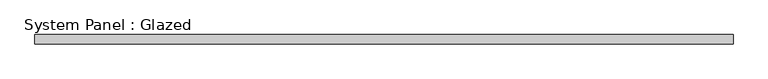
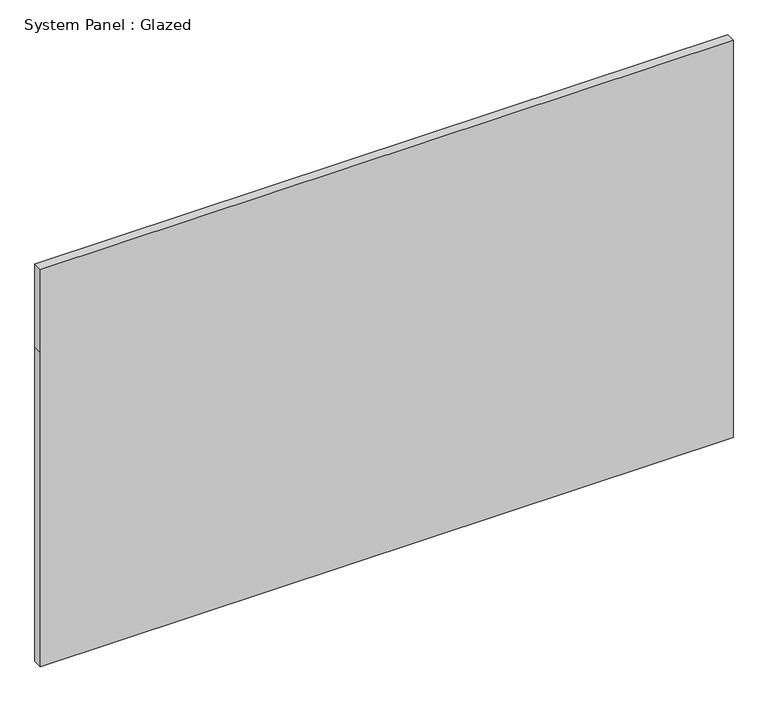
"""IFC4 building model written with IfcOpenShell, lengths in millimetres: plate geometry, System Panel : Glazed."""

from ifc_helpers import new_model, si_unit, frame, origin, place, context, project, spatial, polyline, outline, extrude, source, transform, mapped, element, save


def system_panel_glazed_56110c51(model_context):
    return source(origin(), model_context, "Body", "SweptSolid", [
        extrude(outline(polyline([(0.0, -952.5), (0.0, 952.5), (914.4, 952.5), (1155.7, 952.5), (1155.7, -952.5), (914.4, -952.5), (0.0, -952.5)])), frame((0.0, 19.05, 0.0), z_axis=(0.0, 1.0, 0.0), x_axis=(0.0, 0.0, 1.0)), (0.0, 0.0, 1.0), 25.4),
    ])


if __name__ == "__main__":
    model = new_model("IFC4")
    model_context = context("Model", 3, world=origin())
    ifc_project = project(units=[si_unit("LENGTHUNIT", "METRE", prefix="MILLI")], contexts=[model_context])
    site = spatial("IfcSite", under=ifc_project)
    building = spatial("IfcBuilding", under=site)
    placement = place(None, origin())
    system_panel_glazed_shape = system_panel_glazed_56110c51(model_context)
    element("IfcPlate", 1, ObjectType="System Panel : Glazed", at=placement, inside=building, context=model_context, shape_type="MappedRepresentation", body=[
        mapped(system_panel_glazed_shape, transform((0.0, 0.0, 0.0), x_axis=(1.0, 0.0, 0.0), y_axis=(0.0, 1.0, 0.0), z_axis=(0.0, 0.0, 1.0))),
    ])
    save(model, "model.ifc")
